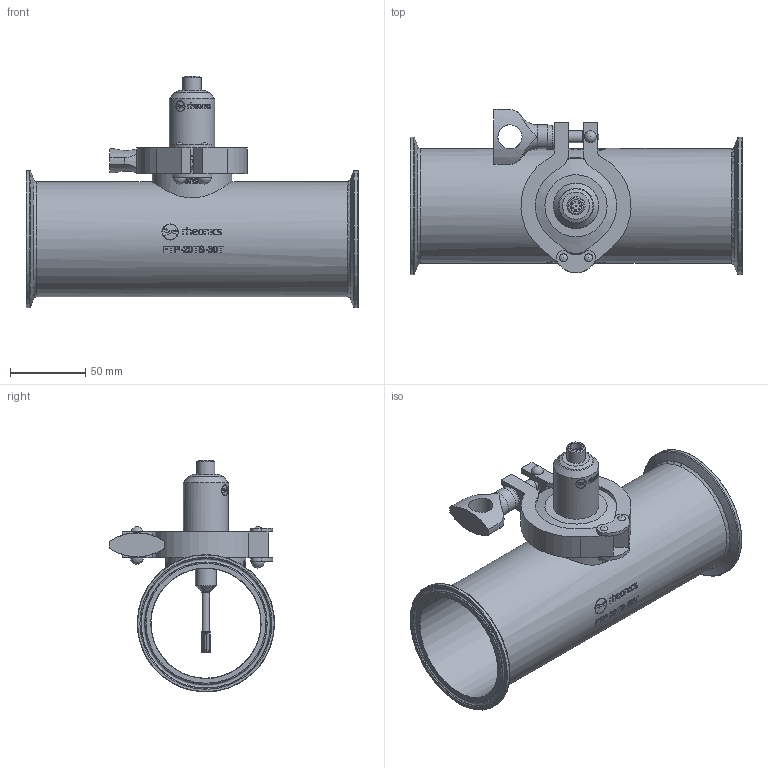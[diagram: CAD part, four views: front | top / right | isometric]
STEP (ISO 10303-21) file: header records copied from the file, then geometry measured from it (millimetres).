
FILE_DESCRIPTION(/* description */ ('Unknown'),/* implementation_level */ '2;1');
FILE_NAME(/* name */ 'SRD-FTP-20TS-30T',/* time_stamp */ '2024-12-26T12:25:41-05:00',/* author */ ('Unknown'),/* organization */ ('Unknown'),/* preprocessor_version */ 'ST-DEVELOPER v16.7',/* originating_system */ 'Solid Edge',/* authorisation */ 'Unknown');
FILE_SCHEMA (('AUTOMOTIVE_DESIGN {1 0 10303 214 3 1 1}'));
Length unit declared in the file: millimetre
Products named in the file (5): SRD-FTP-20TS-30T; FTP-20TS-30T; TC-20T-Seal; SRD-HD-X3-20T; TC_2inch_Seal_Clamp
Assembly tree (4 placements, depth 2):
  SRD-FTP-20TS-30T
    FTP-20TS-30T
    TC-20T-Seal
    SRD-HD-X3-20T
    TC_2inch_Seal_Clamp
Bounding box: 220 x 109.44 x 153.66 mm (x, y, z)
Volume: 195690.2 mm3; surface area: 152797.4 mm2
Topology: 4 solids, 4 shells, 811 faces, 2057 edges, 1337 vertices
Faces by surface type: bspline 323, plane 247, cylinder 155, torus 45, cone 26, sphere 15
Full cylindrical faces by diameter (mm): 0.8 x8, 5.019 x1, 7.938 x1, 8 x1, 12 x1, 13.9 x1, 15.873 x1, 16 x1, 30 x1, 50 x1, 50.2 x1, 53 x1, 64 x3, 72.9 x1, 76.2 x1, 91 x2
Entity records: 58440 total; most frequent: CARTESIAN_POINT 36424, ORIENTED_EDGE 3798, DIRECTION 2594, EDGE_CURVE 1899, VERTEX_POINT 1302, EDGE_LOOP 1033, FACE_BOUND 1033, AXIS2_PLACEMENT_3D 925
